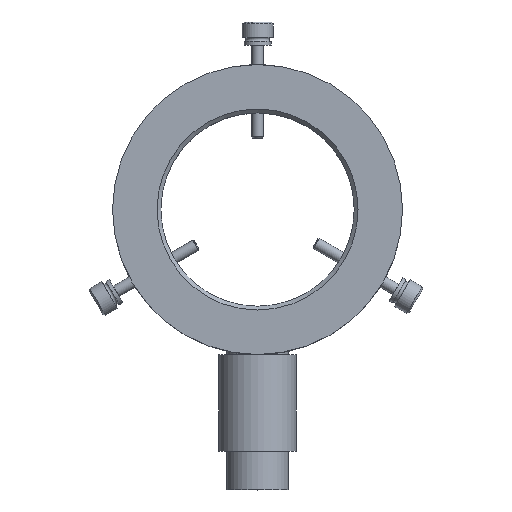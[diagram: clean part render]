
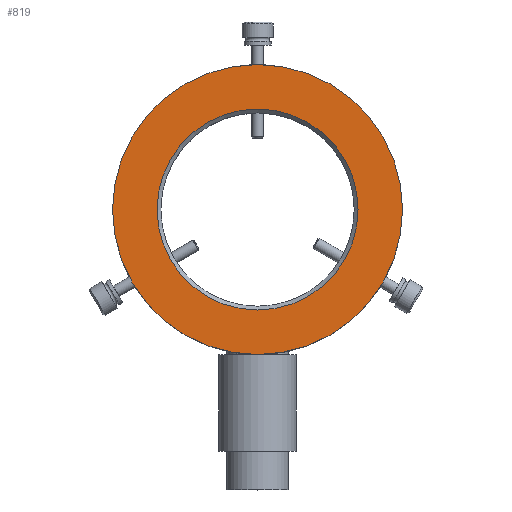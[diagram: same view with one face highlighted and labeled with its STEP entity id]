
A CAD part, top view. The second image highlights one B-rep face of the part: STEP entity #819.
In plain terms, the highlighted planar face has unit normal (0, 0, 1).
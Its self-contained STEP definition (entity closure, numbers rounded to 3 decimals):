
#43=FACE_BOUND('',#233,.T.);
#132=PLANE('',#912);
#166=FACE_OUTER_BOUND('',#232,.T.);
#232=EDGE_LOOP('',(#620));
#233=EDGE_LOOP('',(#621));
#302=CIRCLE('',#908,26.);
#305=CIRCLE('',#913,37.5);
#394=VERTEX_POINT('',#1605);
#397=VERTEX_POINT('',#1615);
#475=EDGE_CURVE('',#394,#394,#302,.T.);
#480=EDGE_CURVE('',#397,#397,#305,.T.);
#620=ORIENTED_EDGE('',*,*,#480,.T.);
#621=ORIENTED_EDGE('',*,*,#475,.F.);
#819=ADVANCED_FACE('',(#166,#43),#132,.T.);
#908=AXIS2_PLACEMENT_3D('',#1606,#1065,#1066);
#912=AXIS2_PLACEMENT_3D('',#1614,#1075,#1076);
#913=AXIS2_PLACEMENT_3D('',#1616,#1077,#1078);
#1065=DIRECTION('center_axis',(0.,0.,1.));
#1066=DIRECTION('ref_axis',(-1.,0.,0.));
#1075=DIRECTION('center_axis',(0.,0.,1.));
#1076=DIRECTION('ref_axis',(1.,0.,0.));
#1077=DIRECTION('center_axis',(0.,0.,1.));
#1078=DIRECTION('ref_axis',(1.,0.,0.));
#1605=CARTESIAN_POINT('',(26.,72.5,11.));
#1606=CARTESIAN_POINT('Origin',(0.,72.5,11.));
#1614=CARTESIAN_POINT('Origin',(0.,72.5,11.));
#1615=CARTESIAN_POINT('',(-37.5,72.5,11.));
#1616=CARTESIAN_POINT('Origin',(0.,72.5,11.));
